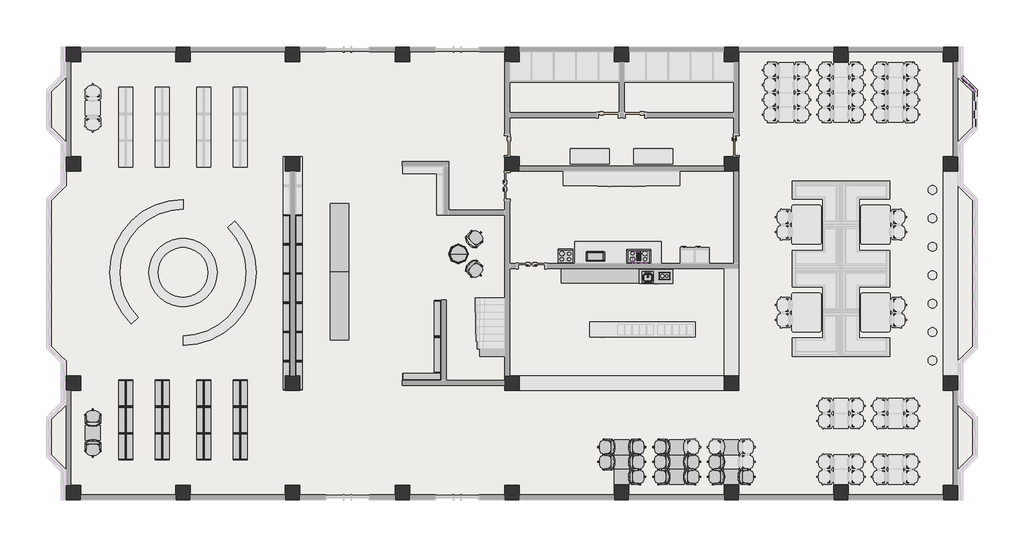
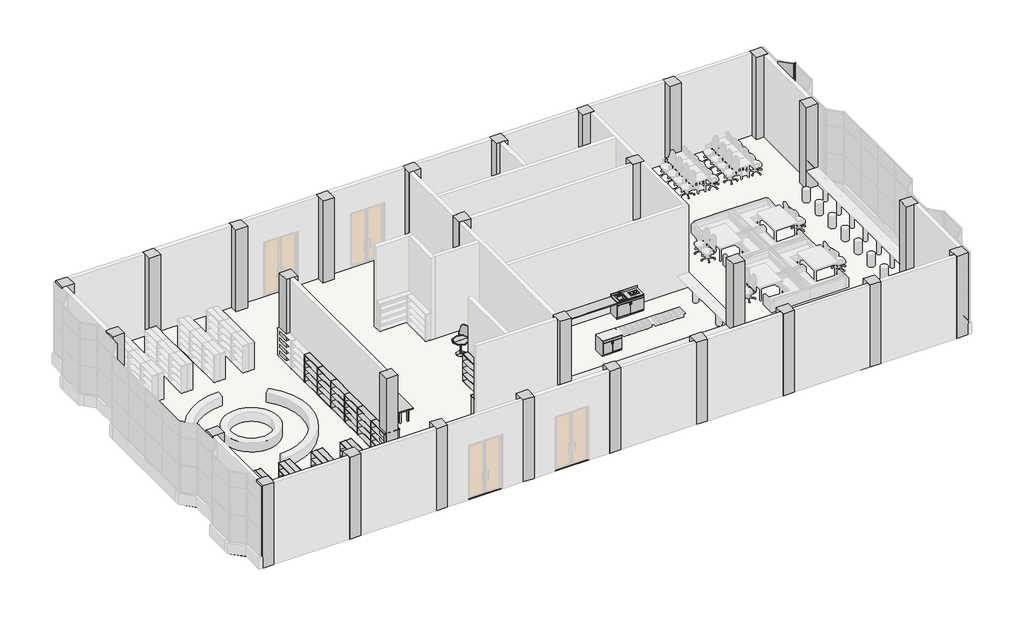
# One storey, part 5 of 6: 71 furniture elements, 28 columns, 6 proxies, 5 members, 3 plates, 1 flow terminal, 1 slab, 1 wall.
"""IFC4 building model written with IfcOpenShell, lengths in millimetres."""

from ifc_helpers import new_model, si_unit, origin, origin_with_axes, place, context, project, spatial, polyline, outline, extrude, faceted_brep, transform, mapped, element, save
from components import proxy_0915_x_500mm_bb916581, proxy_1372mm_f81b7602, proxy_305_x_457mm_ebea1746, proxy_600_x_490mm_1f88b466, proxy_610_x_610mm_0f77da38, proxy_760_x_400_x_450mm_fc9afc05, flow_terminal_450_x_450mm_f969cf2d, furniture_8d69e98c, furniture_a5be4872, furniture_64f8d861, furniture_e894c18f, furniture_9b6547bb, furniture_541a6319, furniture_b8bd35c5, furniture_8a9d21a3, furniture_e875d450, furniture_ca1210f2, furniture_9f6ccaae, furniture_0610_x_0610_x_0762mm_a39a3fb5, furniture_1000mm_50901d35, furniture_1830_x_0762mm_fae4c697, member_b2874c62, member_936fc316, member_ce826986, member_844fc7d1, member_3b68bbe8, plate_54ac635d, plate_9a913afb

model = new_model("IFC4")

# Units and contexts
model_context = context("Model", 3, world=origin())
ifc_project = project(units=[si_unit("LENGTHUNIT", "METRE", prefix="MILLI")], contexts=[model_context])

# Site, building, storey
site = spatial("IfcSite", under=ifc_project)
building = spatial("IfcBuilding", under=site)
storey = spatial("IfcBuildingStorey", under=building, Name="标高 1", Elevation=0.0)

# Proxies
placement = place(None, origin())
proxy_0915_x_500mm_shape = proxy_0915_x_500mm_bb916581(model_context)
element("IfcBuildingElementProxy", 1, Name="炉灶面 - 4 套 : 0915 x 500mm", ObjectType="炉灶面 - 4 套 : 0915 x 500mm", at=placement, inside=storey, context=model_context, shape_type="MappedRepresentation", body=[
    mapped(proxy_0915_x_500mm_shape, transform((14767.3316161, -1925.464179, 0.0), x_axis=(1.0, 0.0, 0.0), y_axis=(0.0, 1.0, 0.0), z_axis=(0.0, 0.0, 1.0))),
])
proxy_1372mm_shape = proxy_1372mm_f81b7602(model_context)
element("IfcBuildingElementProxy", 2, Name="厨房-小 : 1372mm", ObjectType="厨房-小 : 1372mm", at=placement, inside=storey, context=model_context, shape_type="MappedRepresentation", body=[
    mapped(proxy_1372mm_shape, transform((15462.5939111, -2425.464179, 0.0), x_axis=(1.0, 0.0, 0.0), y_axis=(0.0, 1.0, 0.0), z_axis=(0.0, 0.0, 1.0))),
])
proxy_305_x_457mm_shape = proxy_305_x_457mm_ebea1746(model_context)
element("IfcBuildingElementProxy", 3, Name="M_炉灶面 - 2 套 : 305 x 457mm", ObjectType="M_炉灶面 - 2 套 : 305 x 457mm", at=placement, inside=storey, context=model_context, shape_type="MappedRepresentation", body=[
    mapped(proxy_305_x_457mm_shape, transform((15854.5564116, -2806.664179, 40.0), x_axis=(0.0, 1.0000000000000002, 0.0), y_axis=(-1.0000000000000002, 0.0, 0.0), z_axis=(0.0, 0.0, 1.0))),
])
proxy_600_x_490mm_shape = proxy_600_x_490mm_1f88b466(model_context)
element("IfcBuildingElementProxy", 4, Name="排风罩 : 600 x 490mm", ObjectType="排风罩 : 600 x 490mm", at=placement, inside=storey, context=model_context, shape_type="MappedRepresentation", body=[
    mapped(proxy_600_x_490mm_shape, transform((14839.7534032, -2325.464179, 0.0), x_axis=(1.0, 0.0, 0.0), y_axis=(0.0, 1.0, 0.0), z_axis=(0.0, 0.0, 1.0))),
])
proxy_610_x_610mm_shape = proxy_610_x_610mm_0f77da38(model_context)
element("IfcBuildingElementProxy", 5, Name="炉灶 : 610 x 610mm", ObjectType="炉灶 : 610 x 610mm", at=placement, inside=storey, context=model_context, shape_type="MappedRepresentation", body=[
    mapped(proxy_610_x_610mm_shape, transform((11457.3316161, -2225.464179, 0.0), x_axis=(1.0, 0.0, 0.0), y_axis=(0.0, 1.0, 0.0), z_axis=(0.0, 0.0, 1.0))),
])
proxy_760_x_400_x_450mm_shape = proxy_760_x_400_x_450mm_fc9afc05(model_context)
element("IfcBuildingElementProxy", 6, Name="微波炉 : 760 x 400 x 450mm", ObjectType="微波炉 : 760 x 400 x 450mm", at=placement, inside=storey, context=model_context, shape_type="MappedRepresentation", body=[
    mapped(proxy_760_x_400_x_450mm_shape, transform((12487.0387387, -1572.3836732, -18.8061383), x_axis=(1.0, 0.0, 0.0), y_axis=(0.0, 1.0, 0.0), z_axis=(0.0, 0.0, 1.0))),
])

# Columns
element("IfcColumn", 7, ObjectType="混凝土 - 矩形 - 柱 : 柱子-600X600", at=placement, inside=storey, context=model_context, shape_type="SweptSolid", body=[
    extrude(outline(polyline([(-8132.6683839, -11325.464179), (-8132.6683839, -11925.464179), (-8732.6683839, -11925.464179), (-8732.6683839, -11325.464179), (-8132.6683839, -11325.464179)])), origin_with_axes(), (0.0, 0.0, 1.0), 4500.0),
])
element("IfcColumn", 8, ObjectType="混凝土 - 矩形 - 柱 : 柱子-600X600", at=placement, inside=storey, context=model_context, shape_type="SweptSolid", body=[
    extrude(outline(polyline([(-8132.6683839, -6825.464179), (-8132.6683839, -7425.464179), (-8732.6683839, -7425.464179), (-8732.6683839, -6825.464179), (-8132.6683839, -6825.464179)])), origin_with_axes(), (0.0, 0.0, 1.0), 4500.0),
])
element("IfcColumn", 9, ObjectType="混凝土 - 矩形 - 柱 : 柱子-600X600", at=placement, inside=storey, context=model_context, shape_type="SweptSolid", body=[
    extrude(outline(polyline([(-8132.6683839, 2174.535821), (-8132.6683839, 1574.535821), (-8732.6683839, 1574.535821), (-8732.6683839, 2174.535821), (-8132.6683839, 2174.535821)])), origin_with_axes(), (0.0, 0.0, 1.0), 4500.0),
])
element("IfcColumn", 10, ObjectType="混凝土 - 矩形 - 柱 : 柱子-600X600", at=placement, inside=storey, context=model_context, shape_type="Brep", body=[
    faceted_brep([(-8132.6683839, 6674.535821, 0.0), (-8132.6683839, 6074.535821, 0.0), (-8732.6683839, 6074.535821, 0.0), (-8732.6683839, 6474.535821, 0.0), (-8732.6683839, 6674.535821, 0.0), (-8132.6683839, 6674.535821, 4500.0), (-8132.6683839, 6074.535821, 4500.0), (-8732.6683839, 6074.535821, 4500.0), (-8732.6683839, 6674.535821, 4500.0)], [[[0, 1, 2, 3, 4]], [[5, 6, 1, 0]], [[6, 7, 2, 1]], [[7, 8, 4, 3, 2]], [[8, 5, 0, 4]], [[5, 8, 7, 6]]]),
])
element("IfcColumn", 11, ObjectType="混凝土 - 矩形 - 柱 : 柱子-600X600", at=placement, inside=storey, context=model_context, shape_type="SweptSolid", body=[
    extrude(outline(polyline([(-3632.6683839, -11325.464179), (-3632.6683839, -11925.464179), (-4232.6683839, -11925.464179), (-4232.6683839, -11325.464179), (-3632.6683839, -11325.464179)])), origin_with_axes(), (0.0, 0.0, 1.0), 4500.0),
])
element("IfcColumn", 12, ObjectType="混凝土 - 矩形 - 柱 : 柱子-600X600", at=placement, inside=storey, context=model_context, shape_type="SweptSolid", body=[
    extrude(outline(polyline([(-3632.6683839, 6674.535821), (-3632.6683839, 6074.535821), (-4232.6683839, 6074.535821), (-4232.6683839, 6674.535821), (-3632.6683839, 6674.535821)])), origin_with_axes(), (0.0, 0.0, 1.0), 4500.0),
])
element("IfcColumn", 13, ObjectType="混凝土 - 矩形 - 柱 : 柱子-600X600", at=placement, inside=storey, context=model_context, shape_type="SweptSolid", body=[
    extrude(outline(polyline([(867.3316161, -11325.464179), (867.3316161, -11925.464179), (267.3316161, -11925.464179), (267.3316161, -11325.464179), (867.3316161, -11325.464179)])), origin_with_axes(), (0.0, 0.0, 1.0), 4500.0),
])
element("IfcColumn", 14, ObjectType="混凝土 - 矩形 - 柱 : 柱子-600X600", at=placement, inside=storey, context=model_context, shape_type="SweptSolid", body=[
    extrude(outline(polyline([(867.3316161, -6825.464179), (867.3316161, -7425.464179), (267.3316161, -7425.464179), (267.3316161, -6825.464179), (867.3316161, -6825.464179)])), origin_with_axes(), (0.0, 0.0, 1.0), 4500.0),
])
element("IfcColumn", 15, ObjectType="混凝土 - 矩形 - 柱 : 柱子-600X600", at=placement, inside=storey, context=model_context, shape_type="SweptSolid", body=[
    extrude(outline(polyline([(867.3316161, 2174.535821), (867.3316161, 1574.535821), (267.3316161, 1574.535821), (267.3316161, 2174.535821), (867.3316161, 2174.535821)])), origin_with_axes(), (0.0, 0.0, 1.0), 4500.0),
])
element("IfcColumn", 16, ObjectType="混凝土 - 矩形 - 柱 : 柱子-600X600", at=placement, inside=storey, context=model_context, shape_type="SweptSolid", body=[
    extrude(outline(polyline([(867.3316161, 6674.535821), (867.3316161, 6074.535821), (267.3316161, 6074.535821), (267.3316161, 6674.535821), (867.3316161, 6674.535821)])), origin_with_axes(), (0.0, 0.0, 1.0), 4500.0),
])
element("IfcColumn", 17, ObjectType="混凝土 - 矩形 - 柱 : 柱子-600X600", at=placement, inside=storey, context=model_context, shape_type="SweptSolid", body=[
    extrude(outline(polyline([(5367.3316161, -11325.464179), (5367.3316161, -11925.464179), (4767.3316161, -11925.464179), (4767.3316161, -11325.464179), (5367.3316161, -11325.464179)])), origin_with_axes(), (0.0, 0.0, 1.0), 4500.0),
])
element("IfcColumn", 18, ObjectType="混凝土 - 矩形 - 柱 : 柱子-600X600", at=placement, inside=storey, context=model_context, shape_type="SweptSolid", body=[
    extrude(outline(polyline([(5367.3316161, 6674.535821), (5367.3316161, 6074.535821), (4767.3316161, 6074.535821), (4767.3316161, 6674.535821), (5367.3316161, 6674.535821)])), origin_with_axes(), (0.0, 0.0, 1.0), 4500.0),
])
element("IfcColumn", 19, ObjectType="混凝土 - 矩形 - 柱 : 柱子-600X600", at=placement, inside=storey, context=model_context, shape_type="SweptSolid", body=[
    extrude(outline(polyline([(9867.3316161, -11325.464179), (9867.3316161, -11925.464179), (9267.3316161, -11925.464179), (9267.3316161, -11325.464179), (9867.3316161, -11325.464179)])), origin_with_axes(), (0.0, 0.0, 1.0), 4500.0),
])
element("IfcColumn", 20, ObjectType="混凝土 - 矩形 - 柱 : 柱子-600X600", at=placement, inside=storey, context=model_context, shape_type="SweptSolid", body=[
    extrude(outline(polyline([(9867.3316161, -6825.464179), (9867.3316161, -7425.464179), (9267.3316161, -7425.464179), (9267.3316161, -6825.464179), (9867.3316161, -6825.464179)])), origin_with_axes(), (0.0, 0.0, 1.0), 4500.0),
])
element("IfcColumn", 21, ObjectType="混凝土 - 矩形 - 柱 : 柱子-600X600", at=placement, inside=storey, context=model_context, shape_type="SweptSolid", body=[
    extrude(outline(polyline([(9867.3316161, 2174.535821), (9867.3316161, 1574.535821), (9267.3316161, 1574.535821), (9267.3316161, 2174.535821), (9867.3316161, 2174.535821)])), origin_with_axes(), (0.0, 0.0, 1.0), 4500.0),
])
element("IfcColumn", 22, ObjectType="混凝土 - 矩形 - 柱 : 柱子-600X600", at=placement, inside=storey, context=model_context, shape_type="SweptSolid", body=[
    extrude(outline(polyline([(9867.3316161, 6674.535821), (9867.3316161, 6074.535821), (9267.3316161, 6074.535821), (9267.3316161, 6674.535821), (9867.3316161, 6674.535821)])), origin_with_axes(), (0.0, 0.0, 1.0), 4500.0),
])
element("IfcColumn", 23, ObjectType="混凝土 - 矩形 - 柱 : 柱子-600X600", at=placement, inside=storey, context=model_context, shape_type="SweptSolid", body=[
    extrude(outline(polyline([(14367.3316161, -11325.464179), (14367.3316161, -11925.464179), (13767.3316161, -11925.464179), (13767.3316161, -11325.464179), (14367.3316161, -11325.464179)])), origin_with_axes(), (0.0, 0.0, 1.0), 4500.0),
])
element("IfcColumn", 24, ObjectType="混凝土 - 矩形 - 柱 : 柱子-600X600", at=placement, inside=storey, context=model_context, shape_type="SweptSolid", body=[
    extrude(outline(polyline([(14367.3316161, 6674.535821), (14367.3316161, 6074.535821), (13767.3316161, 6074.535821), (13767.3316161, 6674.535821), (14367.3316161, 6674.535821)])), origin_with_axes(), (0.0, 0.0, 1.0), 4500.0),
])
element("IfcColumn", 25, ObjectType="混凝土 - 矩形 - 柱 : 柱子-600X600", at=placement, inside=storey, context=model_context, shape_type="SweptSolid", body=[
    extrude(outline(polyline([(18867.3316161, -11325.464179), (18867.3316161, -11925.464179), (18267.3316161, -11925.464179), (18267.3316161, -11325.464179), (18867.3316161, -11325.464179)])), origin_with_axes(), (0.0, 0.0, 1.0), 4500.0),
])
element("IfcColumn", 26, ObjectType="混凝土 - 矩形 - 柱 : 柱子-600X600", at=placement, inside=storey, context=model_context, shape_type="SweptSolid", body=[
    extrude(outline(polyline([(18867.3316161, -6825.464179), (18867.3316161, -7425.464179), (18267.3316161, -7425.464179), (18267.3316161, -6825.464179), (18867.3316161, -6825.464179)])), origin_with_axes(), (0.0, 0.0, 1.0), 4500.0),
])
element("IfcColumn", 27, ObjectType="混凝土 - 矩形 - 柱 : 柱子-600X600", at=placement, inside=storey, context=model_context, shape_type="SweptSolid", body=[
    extrude(outline(polyline([(18867.3316161, 2174.535821), (18867.3316161, 1574.535821), (18267.3316161, 1574.535821), (18267.3316161, 2174.535821), (18867.3316161, 2174.535821)])), origin_with_axes(), (0.0, 0.0, 1.0), 4500.0),
])
element("IfcColumn", 28, ObjectType="混凝土 - 矩形 - 柱 : 柱子-600X600", at=placement, inside=storey, context=model_context, shape_type="SweptSolid", body=[
    extrude(outline(polyline([(18867.3316161, 6674.535821), (18867.3316161, 6074.535821), (18267.3316161, 6074.535821), (18267.3316161, 6674.535821), (18867.3316161, 6674.535821)])), origin_with_axes(), (0.0, 0.0, 1.0), 4500.0),
])
element("IfcColumn", 29, ObjectType="混凝土 - 矩形 - 柱 : 柱子-600X600", at=placement, inside=storey, context=model_context, shape_type="SweptSolid", body=[
    extrude(outline(polyline([(23367.3316161, -11325.464179), (23367.3316161, -11925.464179), (22767.3316161, -11925.464179), (22767.3316161, -11325.464179), (23367.3316161, -11325.464179)])), origin_with_axes(), (0.0, 0.0, 1.0), 4500.0),
])
element("IfcColumn", 30, ObjectType="混凝土 - 矩形 - 柱 : 柱子-600X600", at=placement, inside=storey, context=model_context, shape_type="SweptSolid", body=[
    extrude(outline(polyline([(23367.3316161, 6674.535821), (23367.3316161, 6074.535821), (22767.3316161, 6074.535821), (22767.3316161, 6674.535821), (23367.3316161, 6674.535821)])), origin_with_axes(), (0.0, 0.0, 1.0), 4500.0),
])
element("IfcColumn", 31, ObjectType="混凝土 - 矩形 - 柱 : 柱子-600X600", at=placement, inside=storey, context=model_context, shape_type="SweptSolid", body=[
    extrude(outline(polyline([(27867.3316161, -11325.464179), (27867.3316161, -11925.464179), (27267.3316161, -11925.464179), (27267.3316161, -11325.464179), (27867.3316161, -11325.464179)])), origin_with_axes(), (0.0, 0.0, 1.0), 4500.0),
])
element("IfcColumn", 32, ObjectType="混凝土 - 矩形 - 柱 : 柱子-600X600", at=placement, inside=storey, context=model_context, shape_type="SweptSolid", body=[
    extrude(outline(polyline([(27867.3316161, -6825.464179), (27867.3316161, -7425.464179), (27267.3316161, -7425.464179), (27267.3316161, -6825.464179), (27867.3316161, -6825.464179)])), origin_with_axes(), (0.0, 0.0, 1.0), 4500.0),
])
element("IfcColumn", 33, ObjectType="混凝土 - 矩形 - 柱 : 柱子-600X600", at=placement, inside=storey, context=model_context, shape_type="SweptSolid", body=[
    extrude(outline(polyline([(27867.3316161, 2174.535821), (27867.3316161, 1574.535821), (27267.3316161, 1574.535821), (27267.3316161, 2174.535821), (27867.3316161, 2174.535821)])), origin_with_axes(), (0.0, 0.0, 1.0), 4500.0),
])
element("IfcColumn", 34, ObjectType="混凝土 - 矩形 - 柱 : 柱子-600X600", at=placement, inside=storey, context=model_context, shape_type="Brep", body=[
    faceted_brep([(27867.3316161, 6674.535821, 0.0), (27867.3316161, 6474.535821, 0.0), (27867.3316161, 6074.535821, 0.0), (27267.3316161, 6074.535821, 0.0), (27267.3316161, 6674.535821, 0.0), (27867.3316161, 6674.535821, 4500.0), (27867.3316161, 6074.535821, 4500.0), (27267.3316161, 6074.535821, 4500.0), (27267.3316161, 6674.535821, 4500.0)], [[[0, 1, 2, 3, 4]], [[5, 6, 2, 1, 0]], [[6, 7, 3, 2]], [[7, 8, 4, 3]], [[8, 5, 0, 4]], [[5, 8, 7, 6]]]),
])

# Flow terminal
flow_terminal_450_x_450mm_shape = flow_terminal_450_x_450mm_f969cf2d(model_context)
element("IfcFlowTerminal", 35, ObjectType="M_厨房水槽 - 独立式 : 450 x 450mm", at=placement, inside=storey, context=model_context, shape_type="MappedRepresentation", body=[
    mapped(flow_terminal_450_x_450mm_shape, transform((15129.6423755, -2765.9095801, 40.0), x_axis=(1.0, 0.0, 0.0), y_axis=(0.0, 1.0, 0.0), z_axis=(0.0, 0.0, 1.0))),
])

# Furniture
furniture_shape = furniture_8d69e98c(model_context)
element("IfcFurniture", 36, ObjectType="转椅12 : 转椅12", at=placement, inside=storey, context=model_context, shape_type="MappedRepresentation", body=[
    mapped(furniture_shape, transform((-7773.6592036, -8552.9887244, 0.0), x_axis=(1.0, 0.0, 0.0), y_axis=(0.0, 1.0, 0.0), z_axis=(0.0, 0.0, 1.0))),
])
element("IfcFurniture", 37, ObjectType="转椅12 : 转椅12", at=placement, inside=storey, context=model_context, shape_type="MappedRepresentation", body=[
    mapped(furniture_shape, transform((13446.2775177, -9898.8958267, 0.0), x_axis=(0.0, 1.0, 0.0), y_axis=(-1.0, 0.0, 0.0), z_axis=(0.0, 0.0, 1.0))),
])
element("IfcFurniture", 38, ObjectType="转椅12 : 转椅12", at=placement, inside=storey, context=model_context, shape_type="MappedRepresentation", body=[
    mapped(furniture_shape, transform((13446.2775177, -10508.8958267, 0.0), x_axis=(0.0, 1.0, 0.0), y_axis=(-1.0, 0.0, 0.0), z_axis=(0.0, 0.0, 1.0))),
])
element("IfcFurniture", 39, ObjectType="转椅12 : 转椅12", at=placement, inside=storey, context=model_context, shape_type="MappedRepresentation", body=[
    mapped(furniture_shape, transform((17941.2775177, -10508.8958267, 0.0), x_axis=(0.0, 1.0, 0.0), y_axis=(-1.0, 0.0, 0.0), z_axis=(0.0, 0.0, 1.0))),
])
element("IfcFurniture", 40, ObjectType="转椅12 : 转椅12", at=placement, inside=storey, context=model_context, shape_type="MappedRepresentation", body=[
    mapped(furniture_shape, transform((17941.2775177, -11118.8958267, 0.0), x_axis=(0.0, 1.0, 0.0), y_axis=(-1.0, 0.0, 0.0), z_axis=(0.0, 0.0, 1.0))),
])
element("IfcFurniture", 41, ObjectType="转椅12 : 转椅12", at=placement, inside=storey, context=model_context, shape_type="MappedRepresentation", body=[
    mapped(furniture_shape, transform((15701.2775177, -9898.8958267, 0.0), x_axis=(0.0, 1.0, 0.0), y_axis=(-1.0, 0.0, 0.0), z_axis=(0.0, 0.0, 1.0))),
])
element("IfcFurniture", 42, ObjectType="转椅12 : 转椅12", at=placement, inside=storey, context=model_context, shape_type="MappedRepresentation", body=[
    mapped(furniture_shape, transform((15701.2775177, -10508.8958267, 0.0), x_axis=(0.0, 1.0, 0.0), y_axis=(-1.0, 0.0, 0.0), z_axis=(0.0, 0.0, 1.0))),
])
element("IfcFurniture", 43, ObjectType="转椅12 : 转椅12", at=placement, inside=storey, context=model_context, shape_type="MappedRepresentation", body=[
    mapped(furniture_shape, transform((15701.2775177, -11118.8958267, 0.0), x_axis=(0.0, 1.0, 0.0), y_axis=(-1.0, 0.0, 0.0), z_axis=(0.0, 0.0, 1.0))),
])
element("IfcFurniture", 44, ObjectType="转椅12 : 转椅12", at=placement, inside=storey, context=model_context, shape_type="MappedRepresentation", body=[
    mapped(furniture_shape, transform((7944.2183554, -1090.464813, 0.0), x_axis=(0.7071067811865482, -0.7071067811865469, 0.0), y_axis=(0.7071067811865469, 0.7071067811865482, 0.0), z_axis=(0.0, 0.0, 1.0))),
])
furniture_2_shape = furniture_a5be4872(model_context)
element("IfcFurniture", 45, ObjectType="转椅12 : 转椅12", at=placement, inside=storey, context=model_context, shape_type="MappedRepresentation", body=[
    mapped(furniture_2_shape, transform((-7773.6592036, -9805.0969211, 0.0), x_axis=(1.0, 0.0, 0.0), y_axis=(0.0, 1.0, 0.0), z_axis=(0.0, 0.0, 1.0))),
])
element("IfcFurniture", 46, ObjectType="转椅12 : 转椅12", at=placement, inside=storey, context=model_context, shape_type="MappedRepresentation", body=[
    mapped(furniture_2_shape, transform((14698.3857144, -9898.8958267, 0.0), x_axis=(0.0, 1.0, 0.0), y_axis=(-1.0, 0.0, 0.0), z_axis=(0.0, 0.0, 1.0))),
])
element("IfcFurniture", 47, ObjectType="转椅12 : 转椅12", at=placement, inside=storey, context=model_context, shape_type="MappedRepresentation", body=[
    mapped(furniture_2_shape, transform((14698.3857144, -10508.8958267, 0.0), x_axis=(0.0, 1.0, 0.0), y_axis=(-1.0, 0.0, 0.0), z_axis=(0.0, 0.0, 1.0))),
])
element("IfcFurniture", 48, ObjectType="转椅12 : 转椅12", at=placement, inside=storey, context=model_context, shape_type="MappedRepresentation", body=[
    mapped(furniture_2_shape, transform((14698.3857144, -11118.8958267, 0.0), x_axis=(0.0, 1.0, 0.0), y_axis=(-1.0, 0.0, 0.0), z_axis=(0.0, 0.0, 1.0))),
])
element("IfcFurniture", 49, ObjectType="转椅12 : 转椅12", at=placement, inside=storey, context=model_context, shape_type="MappedRepresentation", body=[
    mapped(furniture_2_shape, transform((19193.3857144, -11118.8958267, 0.0), x_axis=(0.0, 1.0, 0.0), y_axis=(-1.0, 0.0, 0.0), z_axis=(0.0, 0.0, 1.0))),
])
element("IfcFurniture", 50, ObjectType="转椅12 : 转椅12", at=placement, inside=storey, context=model_context, shape_type="MappedRepresentation", body=[
    mapped(furniture_2_shape, transform((16953.3857144, -10508.8958267, 0.0), x_axis=(0.0, 1.0, 0.0), y_axis=(-1.0, 0.0, 0.0), z_axis=(0.0, 0.0, 1.0))),
])
element("IfcFurniture", 51, ObjectType="转椅12 : 转椅12", at=placement, inside=storey, context=model_context, shape_type="MappedRepresentation", body=[
    mapped(furniture_2_shape, transform((16953.3857144, -11118.8958267, 0.0), x_axis=(0.0, 1.0, 0.0), y_axis=(-1.0, 0.0, 0.0), z_axis=(0.0, 0.0, 1.0))),
])
element("IfcFurniture", 52, ObjectType="转椅12 : 转椅12", at=placement, inside=storey, context=model_context, shape_type="MappedRepresentation", body=[
    mapped(furniture_2_shape, transform((7944.2183554, -2560.463545, 0.0), x_axis=(0.7071067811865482, 0.7071067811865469, 0.0), y_axis=(-0.7071067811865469, 0.7071067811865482, 0.0), z_axis=(0.0, 0.0, 1.0))),
])
furniture_3_shape = furniture_64f8d861(model_context)
element("IfcFurniture", 53, ObjectType="书柜7 : W800*D419*H1515mm", at=placement, inside=storey, context=model_context, shape_type="MappedRepresentation", body=[
    mapped(furniture_3_shape, transform((-6460.6683839, -9742.6214668, 0.0), x_axis=(0.0, -0.9999999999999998, 0.0), y_axis=(0.9999999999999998, 0.0, 0.0), z_axis=(0.0, 0.0, 1.0))),
])
element("IfcFurniture", 54, ObjectType="书柜7 : W800*D419*H1515mm", at=placement, inside=storey, context=model_context, shape_type="MappedRepresentation", body=[
    mapped(furniture_3_shape, transform((-6460.6683839, -8642.5815117, 0.0), x_axis=(0.0, -0.9999999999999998, 0.0), y_axis=(0.9999999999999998, 0.0, 0.0), z_axis=(0.0, 0.0, 1.0))),
])
element("IfcFurniture", 55, ObjectType="书柜7 : W800*D419*H1515mm", at=placement, inside=storey, context=model_context, shape_type="MappedRepresentation", body=[
    mapped(furniture_3_shape, transform((-6460.6683839, -7542.5415566, 0.0), x_axis=(0.0, -0.9999999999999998, 0.0), y_axis=(0.9999999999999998, 0.0, 0.0), z_axis=(0.0, 0.0, 1.0))),
])
element("IfcFurniture", 56, ObjectType="书柜7 : W800*D419*H1515mm", at=placement, inside=storey, context=model_context, shape_type="MappedRepresentation", body=[
    mapped(furniture_3_shape, transform((-4960.6683839, -9742.6214668, 0.0), x_axis=(0.0, -0.9999999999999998, 0.0), y_axis=(0.9999999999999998, 0.0, 0.0), z_axis=(0.0, 0.0, 1.0))),
])
element("IfcFurniture", 57, ObjectType="书柜7 : W800*D419*H1515mm", at=placement, inside=storey, context=model_context, shape_type="MappedRepresentation", body=[
    mapped(furniture_3_shape, transform((-4960.6683839, -8642.5815117, 0.0), x_axis=(0.0, -0.9999999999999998, 0.0), y_axis=(0.9999999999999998, 0.0, 0.0), z_axis=(0.0, 0.0, 1.0))),
])
element("IfcFurniture", 58, ObjectType="书柜7 : W800*D419*H1515mm", at=placement, inside=storey, context=model_context, shape_type="MappedRepresentation", body=[
    mapped(furniture_3_shape, transform((-4960.6683839, -7542.5415566, 0.0), x_axis=(0.0, -0.9999999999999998, 0.0), y_axis=(0.9999999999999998, 0.0, 0.0), z_axis=(0.0, 0.0, 1.0))),
])
element("IfcFurniture", 59, ObjectType="书柜7 : W800*D419*H1515mm", at=placement, inside=storey, context=model_context, shape_type="MappedRepresentation", body=[
    mapped(furniture_3_shape, transform((-1760.6683839, -9742.6214668, 0.0), x_axis=(0.0, -0.9999999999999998, 0.0), y_axis=(0.9999999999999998, 0.0, 0.0), z_axis=(0.0, 0.0, 1.0))),
])
element("IfcFurniture", 60, ObjectType="书柜7 : W800*D419*H1515mm", at=placement, inside=storey, context=model_context, shape_type="MappedRepresentation", body=[
    mapped(furniture_3_shape, transform((-1760.6683839, -8642.5815117, 0.0), x_axis=(0.0, -0.9999999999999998, 0.0), y_axis=(0.9999999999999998, 0.0, 0.0), z_axis=(0.0, 0.0, 1.0))),
])
element("IfcFurniture", 61, ObjectType="书柜7 : W800*D419*H1515mm", at=placement, inside=storey, context=model_context, shape_type="MappedRepresentation", body=[
    mapped(furniture_3_shape, transform((-1760.6683839, -7542.5415566, 0.0), x_axis=(0.0, -0.9999999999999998, 0.0), y_axis=(0.9999999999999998, 0.0, 0.0), z_axis=(0.0, 0.0, 1.0))),
])
element("IfcFurniture", 62, ObjectType="书柜7 : W800*D419*H1515mm", at=placement, inside=storey, context=model_context, shape_type="MappedRepresentation", body=[
    mapped(furniture_3_shape, transform((-3260.6683839, -9742.6214668, 0.0), x_axis=(0.0, -0.9999999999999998, 0.0), y_axis=(0.9999999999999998, 0.0, 0.0), z_axis=(0.0, 0.0, 1.0))),
])
element("IfcFurniture", 63, ObjectType="书柜7 : W800*D419*H1515mm", at=placement, inside=storey, context=model_context, shape_type="MappedRepresentation", body=[
    mapped(furniture_3_shape, transform((-3260.6683839, -8642.5815117, 0.0), x_axis=(0.0, -0.9999999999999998, 0.0), y_axis=(0.9999999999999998, 0.0, 0.0), z_axis=(0.0, 0.0, 1.0))),
])
element("IfcFurniture", 64, ObjectType="书柜7 : W800*D419*H1515mm", at=placement, inside=storey, context=model_context, shape_type="MappedRepresentation", body=[
    mapped(furniture_3_shape, transform((-3260.6683839, -7542.5415566, 0.0), x_axis=(0.0, -0.9999999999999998, 0.0), y_axis=(0.9999999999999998, 0.0, 0.0), z_axis=(0.0, 0.0, 1.0))),
])
furniture_4_shape = furniture_e894c18f(model_context)
element("IfcFurniture", 65, ObjectType="书柜7 : W800*D419*H1515mm", at=placement, inside=storey, context=model_context, shape_type="MappedRepresentation", body=[
    mapped(furniture_4_shape, transform((-6104.6683839, -9742.6214668, 0.0), x_axis=(0.0, -0.9999999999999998, 0.0), y_axis=(0.9999999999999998, 0.0, 0.0), z_axis=(0.0, 0.0, 1.0))),
])
element("IfcFurniture", 66, ObjectType="书柜7 : W800*D419*H1515mm", at=placement, inside=storey, context=model_context, shape_type="MappedRepresentation", body=[
    mapped(furniture_4_shape, transform((-6104.6683839, -8642.5815117, 0.0), x_axis=(0.0, -0.9999999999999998, 0.0), y_axis=(0.9999999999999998, 0.0, 0.0), z_axis=(0.0, 0.0, 1.0))),
])
element("IfcFurniture", 67, ObjectType="书柜7 : W800*D419*H1515mm", at=placement, inside=storey, context=model_context, shape_type="MappedRepresentation", body=[
    mapped(furniture_4_shape, transform((-6104.6683839, -7542.5415566, 0.0), x_axis=(0.0, -0.9999999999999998, 0.0), y_axis=(0.9999999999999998, 0.0, 0.0), z_axis=(0.0, 0.0, 1.0))),
])
element("IfcFurniture", 68, ObjectType="书柜7 : W800*D419*H1515mm", at=placement, inside=storey, context=model_context, shape_type="MappedRepresentation", body=[
    mapped(furniture_4_shape, transform((-4604.6683839, -9742.6214668, 0.0), x_axis=(0.0, -0.9999999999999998, 0.0), y_axis=(0.9999999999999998, 0.0, 0.0), z_axis=(0.0, 0.0, 1.0))),
])
element("IfcFurniture", 69, ObjectType="书柜7 : W800*D419*H1515mm", at=placement, inside=storey, context=model_context, shape_type="MappedRepresentation", body=[
    mapped(furniture_4_shape, transform((-4604.6683839, -8642.5815117, 0.0), x_axis=(0.0, -0.9999999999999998, 0.0), y_axis=(0.9999999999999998, 0.0, 0.0), z_axis=(0.0, 0.0, 1.0))),
])
element("IfcFurniture", 70, ObjectType="书柜7 : W800*D419*H1515mm", at=placement, inside=storey, context=model_context, shape_type="MappedRepresentation", body=[
    mapped(furniture_4_shape, transform((-4604.6683839, -7542.5415566, 0.0), x_axis=(0.0, -0.9999999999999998, 0.0), y_axis=(0.9999999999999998, 0.0, 0.0), z_axis=(0.0, 0.0, 1.0))),
])
element("IfcFurniture", 71, ObjectType="书柜7 : W800*D419*H1515mm", at=placement, inside=storey, context=model_context, shape_type="MappedRepresentation", body=[
    mapped(furniture_4_shape, transform((-1404.6683839, -9742.6214668, 0.0), x_axis=(0.0, -0.9999999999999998, 0.0), y_axis=(0.9999999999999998, 0.0, 0.0), z_axis=(0.0, 0.0, 1.0))),
])
element("IfcFurniture", 72, ObjectType="书柜7 : W800*D419*H1515mm", at=placement, inside=storey, context=model_context, shape_type="MappedRepresentation", body=[
    mapped(furniture_4_shape, transform((-1404.6683839, -8642.5815117, 0.0), x_axis=(0.0, -0.9999999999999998, 0.0), y_axis=(0.9999999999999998, 0.0, 0.0), z_axis=(0.0, 0.0, 1.0))),
])
element("IfcFurniture", 73, ObjectType="书柜7 : W800*D419*H1515mm", at=placement, inside=storey, context=model_context, shape_type="MappedRepresentation", body=[
    mapped(furniture_4_shape, transform((-1404.6683839, -7542.5415566, 0.0), x_axis=(0.0, -0.9999999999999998, 0.0), y_axis=(0.9999999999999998, 0.0, 0.0), z_axis=(0.0, 0.0, 1.0))),
])
element("IfcFurniture", 74, ObjectType="书柜7 : W800*D419*H1515mm", at=placement, inside=storey, context=model_context, shape_type="MappedRepresentation", body=[
    mapped(furniture_4_shape, transform((-2904.6683839, -9742.6214668, 0.0), x_axis=(0.0, -0.9999999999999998, 0.0), y_axis=(0.9999999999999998, 0.0, 0.0), z_axis=(0.0, 0.0, 1.0))),
])
element("IfcFurniture", 75, ObjectType="书柜7 : W800*D419*H1515mm", at=placement, inside=storey, context=model_context, shape_type="MappedRepresentation", body=[
    mapped(furniture_4_shape, transform((-2904.6683839, -8642.5815117, 0.0), x_axis=(0.0, -0.9999999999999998, 0.0), y_axis=(0.9999999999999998, 0.0, 0.0), z_axis=(0.0, 0.0, 1.0))),
])
element("IfcFurniture", 76, ObjectType="书柜7 : W800*D419*H1515mm", at=placement, inside=storey, context=model_context, shape_type="MappedRepresentation", body=[
    mapped(furniture_4_shape, transform((-2904.6683839, -7542.5415566, 0.0), x_axis=(0.0, -0.9999999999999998, 0.0), y_axis=(0.9999999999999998, 0.0, 0.0), z_axis=(0.0, 0.0, 1.0))),
])
furniture_5_shape = furniture_9b6547bb(model_context)
element("IfcFurniture", 77, ObjectType="书柜7 : W800*D419*H1515mm 2", at=placement, inside=storey, context=model_context, shape_type="MappedRepresentation", body=[
    mapped(furniture_5_shape, transform((845.2904818, -825.5440893, 0.0), x_axis=(0.0, 1.0, 0.0), y_axis=(-1.0, 0.0, 0.0), z_axis=(0.0, 0.0, 1.0))),
])
element("IfcFurniture", 78, ObjectType="书柜7 : W800*D419*H1515mm 2", at=placement, inside=storey, context=model_context, shape_type="MappedRepresentation", body=[
    mapped(furniture_5_shape, transform((845.2904818, -2025.5840445, 0.0), x_axis=(0.0, 1.0, 0.0), y_axis=(-1.0, 0.0, 0.0), z_axis=(0.0, 0.0, 1.0))),
])
element("IfcFurniture", 79, ObjectType="书柜7 : W800*D419*H1515mm 2", at=placement, inside=storey, context=model_context, shape_type="MappedRepresentation", body=[
    mapped(furniture_5_shape, transform((845.2904818, -3225.6239996, 0.0), x_axis=(0.0, 1.0, 0.0), y_axis=(-1.0, 0.0, 0.0), z_axis=(0.0, 0.0, 1.0))),
])
element("IfcFurniture", 80, ObjectType="书柜7 : W800*D419*H1515mm 2", at=placement, inside=storey, context=model_context, shape_type="MappedRepresentation", body=[
    mapped(furniture_5_shape, transform((845.2904818, -4425.6639548, 0.0), x_axis=(0.0, 1.0, 0.0), y_axis=(-1.0, 0.0, 0.0), z_axis=(0.0, 0.0, 1.0))),
])
element("IfcFurniture", 81, ObjectType="书柜7 : W800*D419*H1515mm 2", at=placement, inside=storey, context=model_context, shape_type="MappedRepresentation", body=[
    mapped(furniture_5_shape, transform((845.2904818, -5625.7039099, 0.0), x_axis=(0.0, 1.0, 0.0), y_axis=(-1.0, 0.0, 0.0), z_axis=(0.0, 0.0, 1.0))),
])
element("IfcFurniture", 82, ObjectType="书柜7 : W800*D419*H1515mm 2", at=placement, inside=storey, context=model_context, shape_type="MappedRepresentation", body=[
    mapped(furniture_5_shape, transform((845.2904818, -6825.7438651, 0.0), x_axis=(0.0, 1.0, 0.0), y_axis=(-1.0, 0.0, 0.0), z_axis=(0.0, 0.0, 1.0))),
])
furniture_6_shape = furniture_541a6319(model_context)
element("IfcFurniture", 83, ObjectType="书柜7 : W800*D419*H1515mm 2", at=placement, inside=storey, context=model_context, shape_type="MappedRepresentation", body=[
    mapped(furniture_6_shape, transform((289.3727503, -825.5440893, 0.0), x_axis=(0.0, 1.0, 0.0), y_axis=(-1.0, 0.0, 0.0), z_axis=(0.0, 0.0, 1.0))),
])
element("IfcFurniture", 84, ObjectType="书柜7 : W800*D419*H1515mm 2", at=placement, inside=storey, context=model_context, shape_type="MappedRepresentation", body=[
    mapped(furniture_6_shape, transform((289.3727503, -2025.5840445, 0.0), x_axis=(0.0, 1.0, 0.0), y_axis=(-1.0, 0.0, 0.0), z_axis=(0.0, 0.0, 1.0))),
])
element("IfcFurniture", 85, ObjectType="书柜7 : W800*D419*H1515mm 2", at=placement, inside=storey, context=model_context, shape_type="MappedRepresentation", body=[
    mapped(furniture_6_shape, transform((289.3727503, -3225.6239996, 0.0), x_axis=(0.0, 1.0, 0.0), y_axis=(-1.0, 0.0, 0.0), z_axis=(0.0, 0.0, 1.0))),
])
element("IfcFurniture", 86, ObjectType="书柜7 : W800*D419*H1515mm 2", at=placement, inside=storey, context=model_context, shape_type="MappedRepresentation", body=[
    mapped(furniture_6_shape, transform((289.3727503, -4425.6639548, 0.0), x_axis=(0.0, 1.0, 0.0), y_axis=(-1.0, 0.0, 0.0), z_axis=(0.0, 0.0, 1.0))),
])
element("IfcFurniture", 87, ObjectType="书柜7 : W800*D419*H1515mm 2", at=placement, inside=storey, context=model_context, shape_type="MappedRepresentation", body=[
    mapped(furniture_6_shape, transform((289.3727503, -5625.7039099, 0.0), x_axis=(0.0, 1.0, 0.0), y_axis=(-1.0, 0.0, 0.0), z_axis=(0.0, 0.0, 1.0))),
])
element("IfcFurniture", 88, ObjectType="书柜7 : W800*D419*H1515mm 2", at=placement, inside=storey, context=model_context, shape_type="MappedRepresentation", body=[
    mapped(furniture_6_shape, transform((289.3727503, -6825.7438651, 0.0), x_axis=(0.0, 1.0, 0.0), y_axis=(-1.0, 0.0, 0.0), z_axis=(0.0, 0.0, 1.0))),
])
furniture_7_shape = furniture_b8bd35c5(model_context)
element("IfcFurniture", 89, ObjectType="书柜7 : W800*D419*H1515mm 4", at=placement, inside=storey, context=model_context, shape_type="MappedRepresentation", body=[
    mapped(furniture_7_shape, transform((5867.2916609, -6847.464179, 0.0), x_axis=(-0.9999999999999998, 0.0, 0.0), y_axis=(0.0, -0.9999999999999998, 0.0), z_axis=(0.0, 0.0, 1.0))),
])
furniture_8_shape = furniture_8a9d21a3(model_context)
element("IfcFurniture", 90, ObjectType="书柜7 : W800*D419*H1515mm 5", at=placement, inside=storey, context=model_context, shape_type="MappedRepresentation", body=[
    mapped(furniture_8_shape, transform((6489.2904818, -5975.464179, 0.0), x_axis=(0.0, -1.0, 0.0), y_axis=(1.0, 0.0, 0.0), z_axis=(0.0, 0.0, 1.0))),
])
element("IfcFurniture", 91, ObjectType="书柜7 : W800*D419*H1515mm 5", at=placement, inside=storey, context=model_context, shape_type="MappedRepresentation", body=[
    mapped(furniture_8_shape, transform((6489.2904818, -4475.464179, 0.0), x_axis=(0.0, -1.0, 0.0), y_axis=(1.0, 0.0, 0.0), z_axis=(0.0, 0.0, 1.0))),
])
furniture_9_shape = furniture_e875d450(model_context)
element("IfcFurniture", 92, ObjectType="桌子 - 圆形 : 0915mm 直径", at=placement, inside=storey, context=model_context, shape_type="MappedRepresentation", body=[
    mapped(furniture_9_shape, transform((7367.3316161, -1825.464179, 0.0), x_axis=(1.0, 0.0, 0.0), y_axis=(0.0, 1.0, 0.0), z_axis=(0.0, 0.0, 1.0))),
])
furniture_10_shape = furniture_ca1210f2(model_context)
element("IfcFurniture", 93, ObjectType="M_带水槽开口的台面 : 600mm 深", at=placement, inside=storey, context=model_context, shape_type="MappedRepresentation", body=[
    mapped(furniture_10_shape, transform((15995.7939111, -2425.464179, 40.0), x_axis=(1.0, 0.0, 0.0), y_axis=(0.0, 1.0, 0.0), z_axis=(0.0, 0.0, 1.0))),
])
furniture_11_shape = furniture_9f6ccaae(model_context)
element("IfcFurniture", 94, ObjectType="台面 - 独立式 : 1220mm 深", at=placement, inside=storey, context=model_context, shape_type="MappedRepresentation", body=[
    mapped(furniture_11_shape, transform((12788.7519056, -2425.464179, 0.0), x_axis=(1.0, 0.0, 0.0), y_axis=(0.0, 1.0, 0.0), z_axis=(0.0, 0.0, 1.0))),
])
furniture_0610_x_0610_x_0762mm_shape = furniture_0610_x_0610_x_0762mm_a39a3fb5(model_context)
element("IfcFurniture", 95, ObjectType="边桌2 : 0610 x 0610 x 0762mm", at=placement, inside=storey, context=model_context, shape_type="MappedRepresentation", body=[
    mapped(furniture_0610_x_0610_x_0762mm_shape, transform((-7946.4020142, -9484.0428228, 0.0), x_axis=(1.0, 0.0, 0.0), y_axis=(0.0, 1.0, 0.0), z_axis=(0.0, 0.0, 1.0))),
])
element("IfcFurniture", 96, ObjectType="边桌2 : 0610 x 0610 x 0762mm", at=placement, inside=storey, context=model_context, shape_type="MappedRepresentation", body=[
    mapped(furniture_0610_x_0610_x_0762mm_shape, transform((14377.3316161, -10071.6386373, 0.0), x_axis=(0.0, 1.0, 0.0), y_axis=(-1.0, 0.0, 0.0), z_axis=(0.0, 0.0, 1.0))),
])
element("IfcFurniture", 97, ObjectType="边桌2 : 0610 x 0610 x 0762mm", at=placement, inside=storey, context=model_context, shape_type="MappedRepresentation", body=[
    mapped(furniture_0610_x_0610_x_0762mm_shape, transform((14377.3316161, -10681.6386373, 0.0), x_axis=(0.0, 1.0, 0.0), y_axis=(-1.0, 0.0, 0.0), z_axis=(0.0, 0.0, 1.0))),
])
element("IfcFurniture", 98, ObjectType="边桌2 : 0610 x 0610 x 0762mm", at=placement, inside=storey, context=model_context, shape_type="MappedRepresentation", body=[
    mapped(furniture_0610_x_0610_x_0762mm_shape, transform((14377.3316161, -11291.6386373, 0.0), x_axis=(0.0, 1.0, 0.0), y_axis=(-1.0, 0.0, 0.0), z_axis=(0.0, 0.0, 1.0))),
])
element("IfcFurniture", 99, ObjectType="边桌2 : 0610 x 0610 x 0762mm", at=placement, inside=storey, context=model_context, shape_type="MappedRepresentation", body=[
    mapped(furniture_0610_x_0610_x_0762mm_shape, transform((18872.3316161, -10071.6386373, 0.0), x_axis=(0.0, 1.0, 0.0), y_axis=(-1.0, 0.0, 0.0), z_axis=(0.0, 0.0, 1.0))),
])
element("IfcFurniture", 100, ObjectType="边桌2 : 0610 x 0610 x 0762mm", at=placement, inside=storey, context=model_context, shape_type="MappedRepresentation", body=[
    mapped(furniture_0610_x_0610_x_0762mm_shape, transform((18872.3316161, -11291.6386373, 0.0), x_axis=(0.0, 1.0, 0.0), y_axis=(-1.0, 0.0, 0.0), z_axis=(0.0, 0.0, 1.0))),
])
element("IfcFurniture", 101, ObjectType="边桌2 : 0610 x 0610 x 0762mm", at=placement, inside=storey, context=model_context, shape_type="MappedRepresentation", body=[
    mapped(furniture_0610_x_0610_x_0762mm_shape, transform((16632.3316161, -10071.6386373, 0.0), x_axis=(0.0, 1.0, 0.0), y_axis=(-1.0, 0.0, 0.0), z_axis=(0.0, 0.0, 1.0))),
])
element("IfcFurniture", 102, ObjectType="边桌2 : 0610 x 0610 x 0762mm", at=placement, inside=storey, context=model_context, shape_type="MappedRepresentation", body=[
    mapped(furniture_0610_x_0610_x_0762mm_shape, transform((16632.3316161, -10681.6386373, 0.0), x_axis=(0.0, 1.0, 0.0), y_axis=(-1.0, 0.0, 0.0), z_axis=(0.0, 0.0, 1.0))),
])
element("IfcFurniture", 103, ObjectType="边桌2 : 0610 x 0610 x 0762mm", at=placement, inside=storey, context=model_context, shape_type="MappedRepresentation", body=[
    mapped(furniture_0610_x_0610_x_0762mm_shape, transform((16632.3316161, -11291.6386373, 0.0), x_axis=(0.0, 1.0, 0.0), y_axis=(-1.0, 0.0, 0.0), z_axis=(0.0, 0.0, 1.0))),
])
furniture_1000mm_shape = furniture_1000mm_50901d35(model_context)
element("IfcFurniture", 104, ObjectType="底柜 - 双门洗涤台 : 1000mm", at=placement, inside=storey, context=model_context, shape_type="MappedRepresentation", body=[
    mapped(furniture_1000mm_shape, transform((13248.5939111, -4625.464179, 0.0), x_axis=(1.0, 0.0, 0.0), y_axis=(0.0, 1.0, 0.0), z_axis=(0.0, 0.0, 1.0))),
])
furniture_1830_x_0762mm_shape = furniture_1830_x_0762mm_fae4c697(model_context)
element("IfcFurniture", 105, ObjectType="桌子 - 矩形 : 1830 x 0762mm", at=placement, inside=storey, context=model_context, shape_type="MappedRepresentation", body=[
    mapped(furniture_1830_x_0762mm_shape, transform((2487.3316161, -1165.464179, 0.0), x_axis=(0.0, 1.0, 0.0), y_axis=(-1.0, 0.0, 0.0), z_axis=(0.0, 0.0, 1.0))),
])
element("IfcFurniture", 106, ObjectType="桌子 - 矩形 : 1830 x 0762mm", at=placement, inside=storey, context=model_context, shape_type="MappedRepresentation", body=[
    mapped(furniture_1830_x_0762mm_shape, transform((2487.3316161, -3965.464179, 0.0), x_axis=(0.0, 1.0, 0.0), y_axis=(-1.0, 0.0, 0.0), z_axis=(0.0, 0.0, 1.0))),
])

# Members
member_shape = member_b2874c62(model_context)
element("IfcMember", 107, ObjectType="圆形竖梃 : 25mm 半径", at=placement, inside=storey, context=model_context, shape_type="MappedRepresentation", body=[
    mapped(member_shape, transform((28567.3316161, 4874.535821, 4500.0), x_axis=(0.0, 1.0, 0.0), y_axis=(-1.0, 0.0, 0.0), z_axis=(0.0, 0.0, 1.0))),
])
member_2_shape = member_936fc316(model_context)
element("IfcMember", 108, ObjectType="圆形竖梃 : 25mm 半径", at=placement, inside=storey, context=model_context, shape_type="MappedRepresentation", body=[
    mapped(member_2_shape, transform((28567.3316161, 4874.535821, 2135.0), x_axis=(0.0, 1.0, 0.0), y_axis=(-1.0, 0.0, 0.0), z_axis=(0.0, 0.0, 1.0))),
])
member_3_shape = member_ce826986(model_context)
element("IfcMember", 109, ObjectType="圆形竖梃 : 25mm 半径", at=placement, inside=storey, context=model_context, shape_type="MappedRepresentation", body=[
    mapped(member_3_shape, transform((28567.3316161, 4874.535821, 3635.0), x_axis=(0.0, 1.0, 0.0), y_axis=(-1.0, 0.0, 0.0), z_axis=(0.0, 0.0, 1.0))),
])
member_4_shape = member_844fc7d1(model_context)
element("IfcMember", 110, ObjectType="圆形竖梃 : 25mm 半径", at=placement, inside=storey, context=model_context, shape_type="MappedRepresentation", body=[
    mapped(member_4_shape, transform((28002.6869551, 5439.1804819, 600.0), x_axis=(0.0, 0.0, -1.0), y_axis=(-0.7071067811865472, -0.7071067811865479, 0.0), z_axis=(-0.7071067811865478, 0.7071067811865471, 0.0))),
])
member_5_shape = member_3b68bbe8(model_context)
element("IfcMember", 111, ObjectType="圆形竖梃 : 25mm 半径", at=placement, inside=storey, context=model_context, shape_type="MappedRepresentation", body=[
    mapped(member_5_shape, transform((28567.3316161, 4824.535821, 600.0), x_axis=(0.0, 0.0, -1.0), y_axis=(-1.0, 0.0, 0.0), z_axis=(0.0, 1.0, 0.0))),
])

# Plates
plate_shape = plate_54ac635d(model_context)
element("IfcPlate", 112, ObjectType="系统嵌板 : 玻璃", at=placement, inside=storey, context=model_context, shape_type="MappedRepresentation", body=[
    mapped(plate_shape, transform((28267.3316161, 5174.535821, 650.0), x_axis=(0.7071067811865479, -0.7071067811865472, 0.0), y_axis=(0.7071067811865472, 0.7071067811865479, 0.0), z_axis=(0.0, 0.0, 1.0))),
])
element("IfcPlate", 113, ObjectType="系统嵌板 : 玻璃", at=placement, inside=storey, context=model_context, shape_type="MappedRepresentation", body=[
    mapped(plate_shape, transform((28267.3316161, 5174.535821, 2150.0), x_axis=(0.7071067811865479, -0.7071067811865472, 0.0), y_axis=(0.7071067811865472, 0.7071067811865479, 0.0), z_axis=(0.0, 0.0, 1.0))),
])
plate_2_shape = plate_9a913afb(model_context)
element("IfcPlate", 114, ObjectType="系统嵌板 : 玻璃", at=placement, inside=storey, context=model_context, shape_type="MappedRepresentation", body=[
    mapped(plate_2_shape, transform((28267.3316161, 5174.535821, 3650.0), x_axis=(0.7071067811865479, -0.7071067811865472, 0.0), y_axis=(0.7071067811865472, 0.7071067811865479, 0.0), z_axis=(0.0, 0.0, 1.0))),
])

# Slab
element("IfcSlab", 115, ObjectType="常规 - 150mm", at=placement, inside=storey, context=model_context, shape_type="Brep", body=[
    faceted_brep([(27867.3316161, 6474.535821, -150.0), (27867.3316161, 5433.1144647, -150.0), (28467.3316161, 4833.1144647, -150.0), (28467.3316161, 3374.535821, -150.0), (27867.3316161, 2774.535821, -150.0), (27867.3316161, 974.535821, -150.0), (28467.3316161, 374.535821, -150.0), (28467.3316161, -5625.464179, -150.0), (27905.9307901, -6186.8650049, -150.0), (27905.9307901, -8064.0633531, -150.0), (28467.3316161, -8625.464179, -150.0), (28467.3316161, -10084.0428228, -150.0), (27905.9307901, -10645.4436487, -150.0), (27905.9307901, -11725.464179, -150.0), (-8771.267558, -11725.464179, -150.0), (-8771.267558, -10645.4436487, -150.0), (-9332.6683839, -10084.0428228, -150.0), (-9332.6683839, -8625.464179, -150.0), (-8771.267558, -8064.0633531, -150.0), (-8771.267558, -6186.8650049, -150.0), (-9332.6683839, -5625.464179, -150.0), (-9332.6683839, 374.535821, -150.0), (-8732.6683839, 974.535821, -150.0), (-8732.6683839, 2774.535821, -150.0), (-9332.6683839, 3374.535821, -150.0), (-9332.6683839, 4833.1144647, -150.0), (-8732.6683839, 5433.1144647, -150.0), (-8732.6683839, 6474.535821, -150.0), (27867.3316161, 6474.535821, 0.0), (-8732.6683839, 6474.535821, 0.0), (-8732.6683839, 6074.535821, 0.0), (-8732.6683839, 5433.1144647, 0.0), (-9332.6683839, 4833.1144647, 0.0), (-9332.6683839, 3374.535821, 0.0), (-8732.6683839, 2774.535821, 0.0), (-8732.6683839, 2174.535821, 0.0), (-8732.6683839, 1574.535821, 0.0), (-8732.6683839, 974.535821, 0.0), (-9332.6683839, 374.535821, 0.0), (-9332.6683839, -5625.464179, 0.0), (-8771.267558, -6186.8650049, 0.0), (-8771.267558, -8064.0633531, 0.0), (-9332.6683839, -8625.464179, 0.0), (-9332.6683839, -10084.0428228, 0.0), (-8771.267558, -10645.4436487, 0.0), (-8771.267558, -11725.464179, 0.0), (27905.9307901, -11725.464179, 0.0), (27905.9307901, -10645.4436487, 0.0), (28467.3316161, -10084.0428228, 0.0), (28467.3316161, -8625.464179, 0.0), (27905.9307901, -8064.0633531, 0.0), (27905.9307901, -6186.8650049, 0.0), (28467.3316161, -5625.464179, 0.0), (28467.3316161, 374.535821, 0.0), (27867.3316161, 974.535821, 0.0), (27867.3316161, 1574.535821, 0.0), (27867.3316161, 2174.535821, 0.0), (27867.3316161, 2774.535821, 0.0), (28467.3316161, 3374.535821, 0.0), (28467.3316161, 4833.1144647, 0.0), (27867.3316161, 5433.1144647, 0.0), (27867.3316161, 6074.535821, 0.0)], [[[0, 1, 2, 3, 4, 5, 6, 7, 8, 9, 10, 11, 12, 13, 14, 15, 16, 17, 18, 19, 20, 21, 22, 23, 24, 25, 26, 27]], [[28, 29, 30, 31, 32, 33, 34, 35, 36, 37, 38, 39, 40, 41, 42, 43, 44, 45, 46, 47, 48, 49, 50, 51, 52, 53, 54, 55, 56, 57, 58, 59, 60, 61]], [[1, 0, 28, 61, 60]], [[2, 1, 60, 59]], [[3, 2, 59, 58]], [[4, 3, 58, 57]], [[5, 4, 57, 56, 55, 54]], [[6, 5, 54, 53]], [[7, 6, 53, 52]], [[8, 7, 52, 51]], [[9, 8, 51, 50]], [[10, 9, 50, 49]], [[11, 10, 49, 48]], [[12, 11, 48, 47]], [[13, 12, 47, 46]], [[14, 13, 46, 45]], [[15, 14, 45, 44]], [[16, 15, 44, 43]], [[17, 16, 43, 42]], [[18, 17, 42, 41]], [[19, 18, 41, 40]], [[20, 19, 40, 39]], [[21, 20, 39, 38]], [[22, 21, 38, 37]], [[23, 22, 37, 36, 35, 34]], [[24, 23, 34, 33]], [[25, 24, 33, 32]], [[26, 25, 32, 31]], [[27, 26, 31, 30, 29]], [[0, 27, 29, 28]]]),
])

# Wall
element("IfcWall", 116, ObjectType="外墙-200", at=placement, inside=storey, context=model_context, shape_type="Brep", body=[
    faceted_brep([(28067.3316161, 5233.1144647, 0.0), (28467.3316161, 4833.1144647, 0.0), (28667.3316161, 4633.1144647, 0.0), (28667.3316161, 4633.1144647, 600.0), (28467.3316161, 4833.1144647, 600.0), (28067.3316161, 5233.1144647, 600.0), (28067.3316161, 5515.9571772, 0.0), (28067.3316161, 5515.9571772, 600.0), (28667.3316161, 4915.9571772, 600.0), (28667.3316161, 4915.9571772, 0.0)], [[[0, 1, 2, 3, 4, 5]], [[6, 7, 8, 9]], [[2, 1, 0, 6, 9]], [[5, 4, 3, 8, 7]], [[0, 5, 7, 6]], [[3, 2, 9, 8]]]),
])

save(model, "model.ifc")
